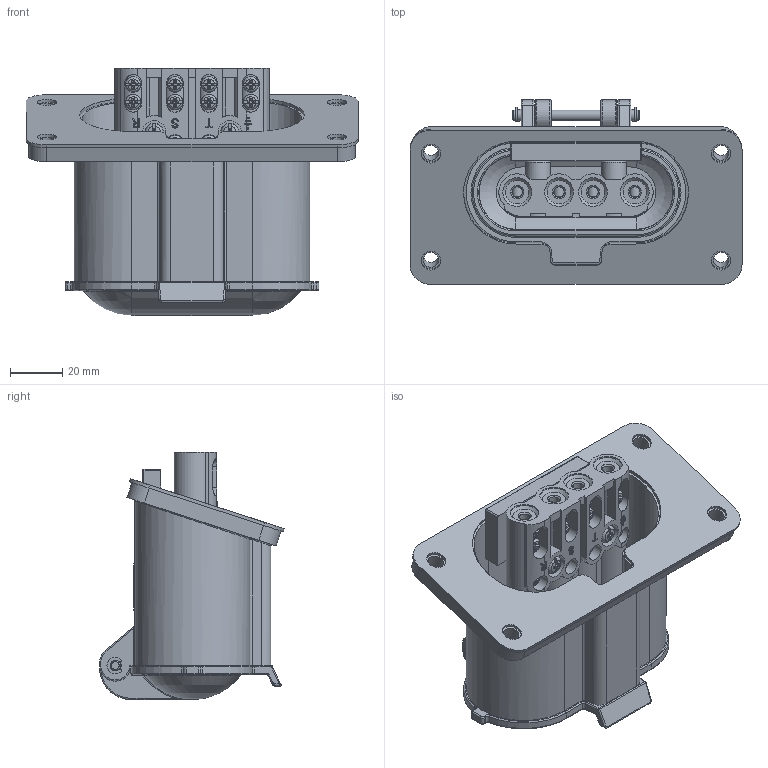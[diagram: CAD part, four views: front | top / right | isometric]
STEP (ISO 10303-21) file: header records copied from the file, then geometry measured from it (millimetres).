
FILE_DESCRIPTION(('Tomada Fixa 25A DIN 49450'),'2;1');
FILE_NAME('E:\WorkFolder\Bibl\3DWeb\kp_pn_png25_step.stp','2023-02-06T13:35:03',('DIE'),('KAP Componentes Eletricos Ltda.'),'Autodesk Inventor 2011','Autodesk Inventor 2011','Direitos reservados. Proibido reproducao, cedencia ou revelacao de conteudo a terceiros, salvo com autorizacao.');
FILE_SCHEMA(('AUTOMOTIVE_DESIGN { 1 0 10303 214 1 1 1 1 }'));
Length unit declared in the file: millimetre
Products named in the file (4): PNG25_3D_02; PNG25_3D_01; PNRF25; 14503_Tp25
Assembly tree (3 placements, depth 2):
  PNG25_3D_02
    PNG25_3D_01
    PNRF25
    14503_Tp25
Bounding box: 127 x 70.74 x 94.5 mm (x, y, z)
Volume: 144339.3 mm3; surface area: 81031.9 mm2
Topology: 3 solids, 31 shells, 1542 faces, 4052 edges, 2591 vertices
Faces by surface type: plane 759, cylinder 377, cone 138, bspline 116, torus 104, sphere 48
Full cylindrical faces by diameter (mm): 2.3 x2, 3.242 x14, 3.4 x10, 3.969 x3, 4 x14, 4.5 x4, 5 x2, 6 x7, 6.4 x4, 7.5 x4, 7.937 x4, 9 x6, 9.5 x2, 11 x4, 18 x1
Entity records: 51512 total; most frequent: CARTESIAN_POINT 13857, ORIENTED_EDGE 7588, DIRECTION 7506, EDGE_CURVE 3794, AXIS2_PLACEMENT_3D 2818, VERTEX_POINT 2514, VECTOR 1870, LINE 1870
